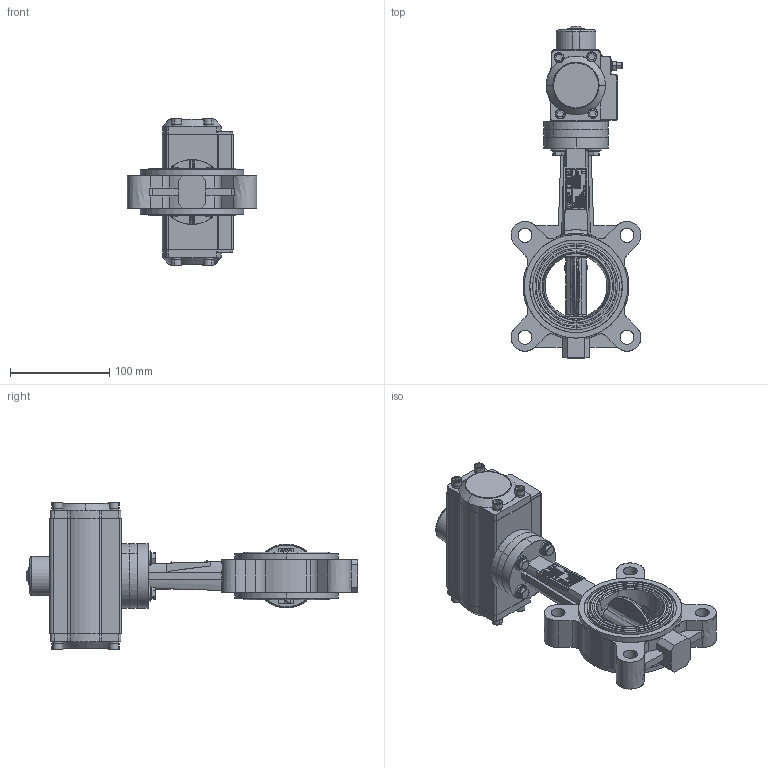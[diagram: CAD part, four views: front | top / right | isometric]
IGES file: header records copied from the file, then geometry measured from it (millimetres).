
Start section: SolidWorks IGES file using analytic representation for surfaces
Global section: file name: H:\BE FABRICATION\BE SERIE\VP\VP SERIE\F072 VPG\plan 3D\VPG-N03\LUG\DN65\VP464X-N03XX0065.igs; native system: SolidWorks 2020; preprocessor: SolidWorks 2020; author: k.gigout; date: 220627.175441; units: millimetre
Bounding box: 130.53 x 333.82 x 148.56 mm (x, y, z)
Surface area: 166478.2 mm2 (no closed solid volume)
Topology: 0 solids, 0 shells, 831 faces, 19430 edges, 19426 vertices
Faces by surface type: bspline 511, revolution 320
